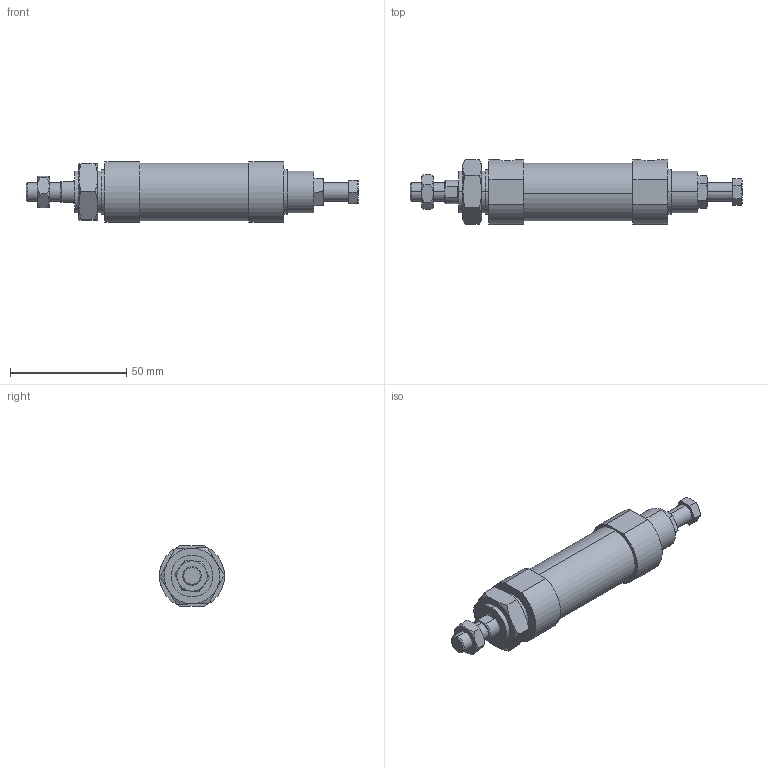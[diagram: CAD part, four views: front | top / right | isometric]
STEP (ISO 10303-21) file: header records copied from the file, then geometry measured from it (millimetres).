
FILE_DESCRIPTION (( 'STEP AP203' ), '1' );
FILE_NAME ('JGA2-20-15-N.STEP', '2016-04-20T05:05:19', ( '' ), ( '' ), 'SwSTEP 2.0', 'SolidWorks 2014', '' );
FILE_SCHEMA (( 'CONFIG_CONTROL_DESIGN' ));
Length unit declared in the file: millimetre
Products named in the file (6): 20-15; M8x1.25-5mm; JGLH2-20B; M18x1.5-8mm; JGA2-20-15-N; JGA2-20A
Assembly tree (5 placements, depth 2):
  JGA2-20-15-N
    JGLH2-20B
    20-15
    JGA2-20A
    M8x1.25-5mm
    M18x1.5-8mm
Bounding box: 143 x 28 x 26 mm (x, y, z)
Volume: 51700.4 mm3; surface area: 15243.2 mm2
Topology: 5 solids, 5 shells, 121 faces, 260 edges, 160 vertices
Faces by surface type: plane 53, torus 36, cylinder 28, cone 4
Entity records: 4454 total; most frequent: CARTESIAN_POINT 1273, DIRECTION 534, ORIENTED_EDGE 520, EDGE_CURVE 260, AXIS2_PLACEMENT_3D 225, VERTEX_POINT 160, EDGE_LOOP 136, FACE_OUTER_BOUND 121
